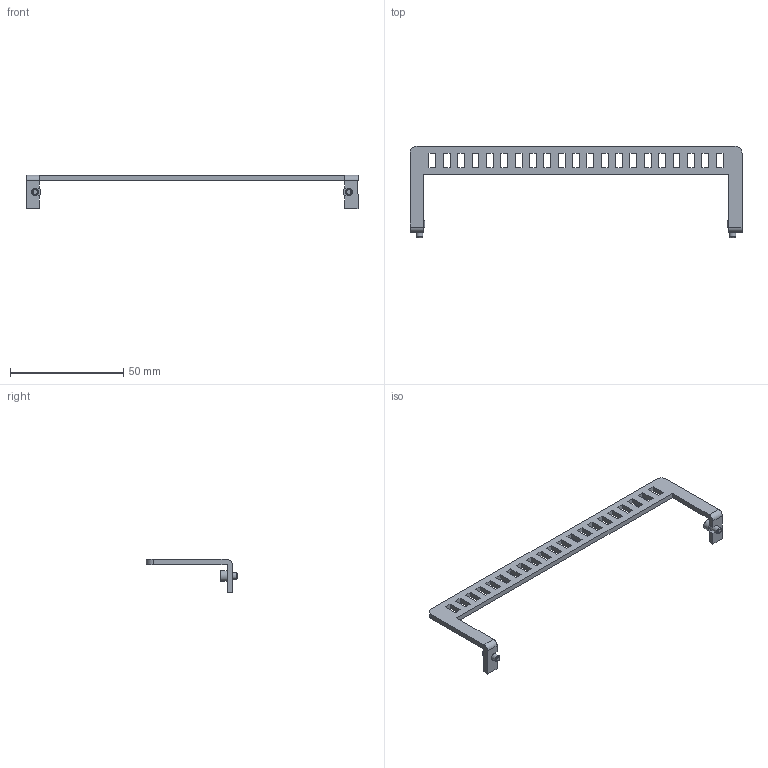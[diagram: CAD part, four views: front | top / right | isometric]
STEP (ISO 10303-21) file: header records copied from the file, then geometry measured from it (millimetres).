
FILE_DESCRIPTION((''),'2;1');
FILE_NAME('C:\old_Drawings\shrinkwrapped website .stp files\5511285-STP.stp','2011-06-14T13:44:24',('GaryRobinson'),(''),'Autodesk Inventor 2011','Autodesk Inventor 2011','');
FILE_SCHEMA(('CONFIG_CONTROL_DESIGN'));
Length unit declared in the file: inch
Products named in the file (1): 5511285-STP
Bounding box: 146.81 x 40.58 x 14.73 mm (x, y, z)
Surface area: 5995 mm2 (no closed solid volume)
Topology: 0 solids, 7 shells, 136 faces, 424 edges, 282 vertices
Faces by surface type: plane 122, cylinder 10, cone 4
Full cylindrical faces by diameter (mm): 2.845 x2, 4.648 x2
Entity records: 4798 total; most frequent: CARTESIAN_POINT 879, ORIENTED_EDGE 758, DIRECTION 704, EDGE_CURVE 414, VECTOR 350, LINE 350, VERTEX_POINT 280, EDGE_LOOP 188
